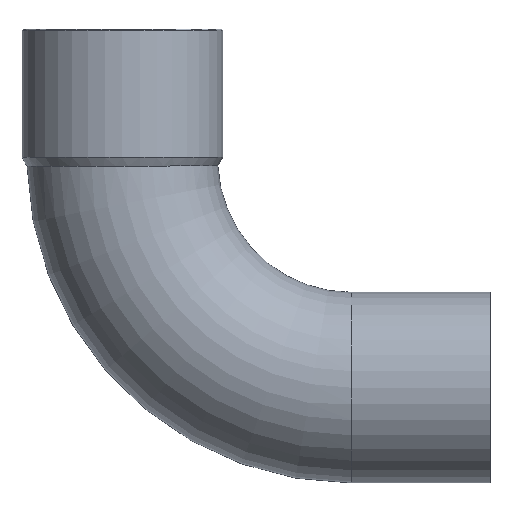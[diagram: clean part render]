
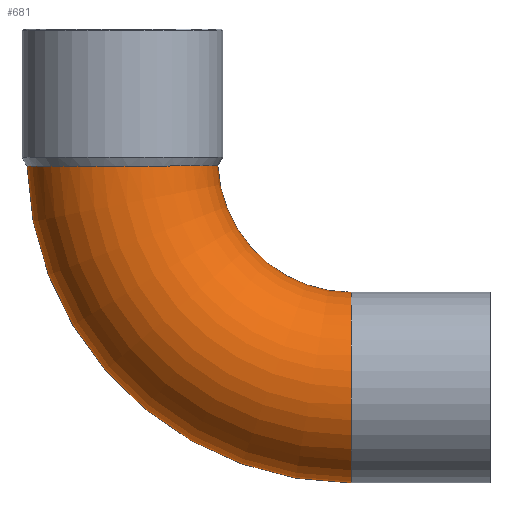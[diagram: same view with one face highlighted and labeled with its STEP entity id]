
A CAD part, front view. The second image highlights one B-rep face of the part: STEP entity #681.
In plain terms, the highlighted toroidal (fillet/blend) face has major radius 50.4 mm and minor radius 21 mm.
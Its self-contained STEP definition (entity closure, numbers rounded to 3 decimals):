
#49=CARTESIAN_POINT('',(-49.346,0.,-1.632));
#50=VERTEX_POINT('',#49);
#51=CARTESIAN_POINT('',(22.035,0.,-71.4));
#52=VERTEX_POINT('',#51);
#53=CARTESIAN_POINT('',(22.035,0.,0.0));
#54=DIRECTION('',(0.0,-1.0,0.0));
#55=DIRECTION('',(0.0,0.0,-1.0));
#56=AXIS2_PLACEMENT_3D('',#53,#54,#55);
#57=CIRCLE('',#56,71.4);
#58=EDGE_CURVE('',#50,#52,#57,.T.);
#60=CARTESIAN_POINT('',(-7.325,0.,-1.531));
#61=VERTEX_POINT('',#60);
#85=CARTESIAN_POINT('',(22.035,0.,-29.4));
#86=VERTEX_POINT('',#85);
#87=CARTESIAN_POINT('',(22.035,0.,0.0));
#88=DIRECTION('',(0.0,1.0,0.0));
#89=DIRECTION('',(0.0,0.0,-1.0));
#90=AXIS2_PLACEMENT_3D('',#87,#88,#89);
#91=CIRCLE('',#90,29.4);
#92=EDGE_CURVE('',#86,#61,#91,.T.);
#212=CARTESIAN_POINT('',(-7.325,0.,-1.531));
#213=CARTESIAN_POINT('',(-7.325,-0.182,-1.531));
#214=CARTESIAN_POINT('',(-7.327,-0.365,-1.531));
#215=CARTESIAN_POINT('',(-7.403,-3.28,-1.531));
#216=CARTESIAN_POINT('',(-8.008,-5.972,-1.535));
#217=CARTESIAN_POINT('',(-10.217,-10.976,-1.545));
#218=CARTESIAN_POINT('',(-11.8,-13.239,-1.552));
#219=CARTESIAN_POINT('',(-15.747,-17.032,-1.567));
#220=CARTESIAN_POINT('',(-18.072,-18.525,-1.574));
#221=CARTESIAN_POINT('',(-23.164,-20.536,-1.588));
#222=CARTESIAN_POINT('',(-25.881,-21.034,-1.595));
#223=CARTESIAN_POINT('',(-31.354,-20.962,-1.606));
#224=CARTESIAN_POINT('',(-34.056,-20.392,-1.611));
#225=CARTESIAN_POINT('',(-39.09,-18.248,-1.619));
#226=CARTESIAN_POINT('',(-41.373,-16.696,-1.622));
#227=CARTESIAN_POINT('',(-45.214,-12.803,-1.627));
#228=CARTESIAN_POINT('',(-46.736,-10.5,-1.629));
#229=CARTESIAN_POINT('',(-48.812,-5.442,-1.632));
#230=CARTESIAN_POINT('',(-49.346,-2.734,-1.632));
#231=CARTESIAN_POINT('',(-49.346,0.,-1.632));
#232=B_SPLINE_CURVE_WITH_KNOTS('',3,(#212,#213,#214,#215,#216,#217,#218,#219,#220,#221,#222,#223,#224,#225,#226,#227,#228,#229,#230,#231),.UNSPECIFIED.,.F.,.U.,(4,2,2,2,2,2,2,2,2,4),(-6.62,-6.565,-5.745,-4.924,-4.103,-3.282,-2.461,-1.64,-0.82,0.0),.UNSPECIFIED.);
#233=EDGE_CURVE('',#61,#50,#232,.T.);
#537=CARTESIAN_POINT('',(22.035,0.,-50.4));
#538=DIRECTION('',(-1.0,0.0,0.0));
#539=DIRECTION('',(0.0,0.0,-1.0));
#540=AXIS2_PLACEMENT_3D('',#537,#538,#539);
#541=CIRCLE('',#540,21.0);
#542=EDGE_CURVE('',#52,#86,#541,.T.);
#670=CARTESIAN_POINT('',(22.035,0.,0.0));
#671=DIRECTION('',(0.0,-1.0,0.0));
#672=DIRECTION('',(0.0,0.0,-1.0));
#673=AXIS2_PLACEMENT_3D('',#670,#671,#672);
#674=TOROIDAL_SURFACE('',#673,50.4,21.0);
#675=ORIENTED_EDGE('',*,*,#58,.T.);
#676=ORIENTED_EDGE('',*,*,#542,.T.);
#677=ORIENTED_EDGE('',*,*,#92,.T.);
#678=ORIENTED_EDGE('',*,*,#233,.T.);
#679=EDGE_LOOP('',(#675,#676,#677,#678));
#680=FACE_OUTER_BOUND('',#679,.T.);
#681=ADVANCED_FACE('',(#680),#674,.T.);
